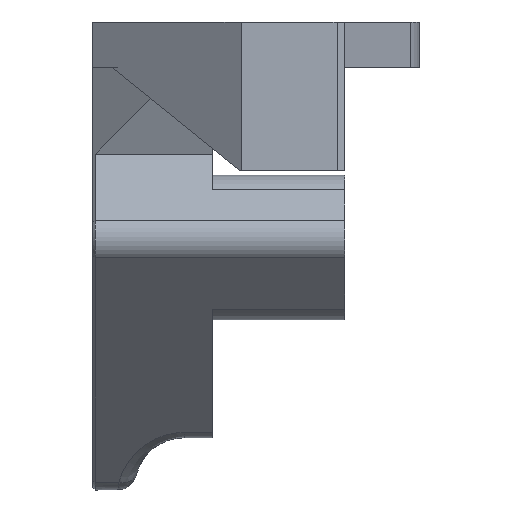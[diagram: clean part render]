
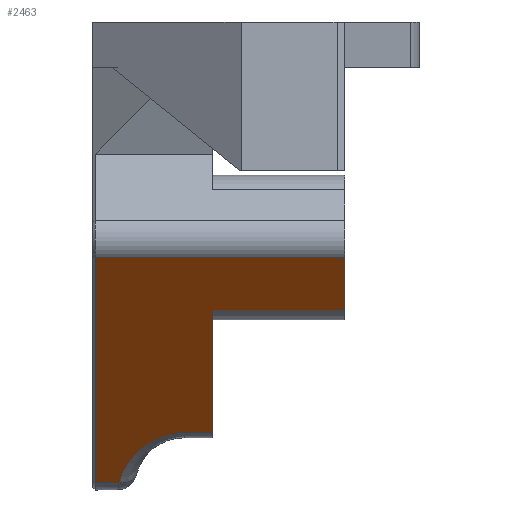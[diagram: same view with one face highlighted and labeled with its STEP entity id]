
A CAD part, left-side view. The second image highlights one B-rep face of the part: STEP entity #2463.
In plain terms, the highlighted planar face has unit normal (-0.707, 0, -0.707).
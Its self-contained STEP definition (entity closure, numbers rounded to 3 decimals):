
#26=ELLIPSE('',#2606,7.778,5.5);
#368=FACE_OUTER_BOUND('',#532,.T.);
#532=EDGE_LOOP('',(#1924,#1925,#1926,#1927,#1928,#1929,#1930,#1931));
#696=LINE('',#5910,#887);
#704=LINE('',#6083,#895);
#705=LINE('',#6085,#896);
#706=LINE('',#6087,#897);
#707=LINE('',#6089,#898);
#708=LINE('',#6091,#899);
#709=LINE('',#6092,#900);
#887=VECTOR('',#2904,10.);
#895=VECTOR('',#2956,10.);
#896=VECTOR('',#2957,10.);
#897=VECTOR('',#2958,10.);
#898=VECTOR('',#2959,10.);
#899=VECTOR('',#2960,10.);
#900=VECTOR('',#2961,2.133);
#1133=VERTEX_POINT('',#5907);
#1134=VERTEX_POINT('',#5909);
#1136=VERTEX_POINT('',#5956);
#1152=VERTEX_POINT('',#6082);
#1153=VERTEX_POINT('',#6084);
#1154=VERTEX_POINT('',#6086);
#1155=VERTEX_POINT('',#6088);
#1156=VERTEX_POINT('',#6090);
#1414=EDGE_CURVE('',#1133,#1134,#696,.T.);
#1419=EDGE_CURVE('',#1134,#1136,#26,.T.);
#1441=EDGE_CURVE('',#1133,#1152,#704,.T.);
#1442=EDGE_CURVE('',#1153,#1152,#705,.T.);
#1443=EDGE_CURVE('',#1154,#1153,#706,.T.);
#1444=EDGE_CURVE('',#1155,#1154,#707,.T.);
#1445=EDGE_CURVE('',#1156,#1155,#708,.T.);
#1446=EDGE_CURVE('',#1136,#1156,#709,.T.);
#1924=ORIENTED_EDGE('',*,*,#1419,.F.);
#1925=ORIENTED_EDGE('',*,*,#1414,.F.);
#1926=ORIENTED_EDGE('',*,*,#1441,.T.);
#1927=ORIENTED_EDGE('',*,*,#1442,.F.);
#1928=ORIENTED_EDGE('',*,*,#1443,.F.);
#1929=ORIENTED_EDGE('',*,*,#1444,.F.);
#1930=ORIENTED_EDGE('',*,*,#1445,.F.);
#1931=ORIENTED_EDGE('',*,*,#1446,.F.);
#2372=PLANE('',#2624);
#2463=ADVANCED_FACE('',(#368),#2372,.T.);
#2606=AXIS2_PLACEMENT_3D('',#5960,#2912,#2913);
#2624=AXIS2_PLACEMENT_3D('',#6081,#2954,#2955);
#2904=DIRECTION('',(0.,1.,0.));
#2912=DIRECTION('center_axis',(-0.707,0.,
-0.707));
#2913=DIRECTION('ref_axis',(-0.707,0.,0.707));
#2954=DIRECTION('center_axis',(-0.707,0.,
-0.707));
#2955=DIRECTION('ref_axis',(0.707,0.,-0.707));
#2956=DIRECTION('',(-0.707,0.,0.707));
#2957=DIRECTION('',(0.,1.,0.));
#2958=DIRECTION('',(0.707,0.,-0.707));
#2959=DIRECTION('',(0.,-1.,0.));
#2960=DIRECTION('',(-0.707,0.,0.707));
#2961=DIRECTION('',(0.,1.,0.));
#5907=CARTESIAN_POINT('',(18.839,42.458,2.172));
#5909=CARTESIAN_POINT('',(18.839,44.75,2.172));
#5910=CARTESIAN_POINT('',(18.839,48.454,2.172));
#5956=CARTESIAN_POINT('',(22.898,50.058,-1.887));
#5960=CARTESIAN_POINT('Origin',(24.339,44.75,-3.328));
#6081=CARTESIAN_POINT('Origin',(4.55,51.908,16.462));
#6082=CARTESIAN_POINT('',(8.775,42.458,12.237));
#6083=CARTESIAN_POINT('',(6.651,42.458,14.36));
#6084=CARTESIAN_POINT('',(8.775,31.62,12.237));
#6085=CARTESIAN_POINT('',(8.775,46.636,12.237));
#6086=CARTESIAN_POINT('',(4.55,31.62,16.462));
#6087=CARTESIAN_POINT('',(10.867,31.62,10.145));
#6088=CARTESIAN_POINT('',(4.55,52.008,16.462));
#6089=CARTESIAN_POINT('',(4.55,40.858,16.462));
#6090=CARTESIAN_POINT('',(22.898,52.008,-1.887));
#6091=CARTESIAN_POINT('',(10.867,52.008,10.145));
#6092=CARTESIAN_POINT('',(22.898,50.261,-1.887));
